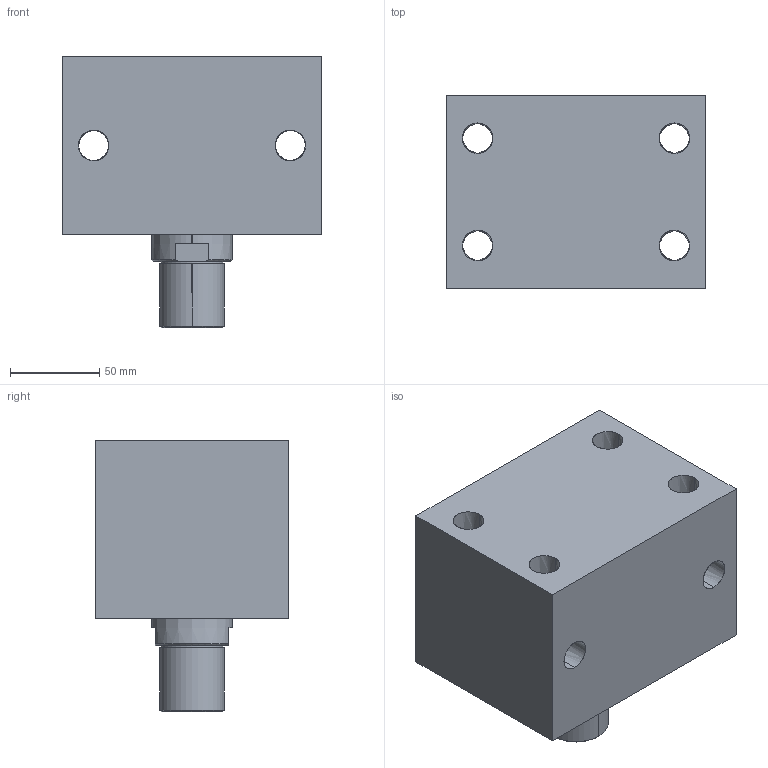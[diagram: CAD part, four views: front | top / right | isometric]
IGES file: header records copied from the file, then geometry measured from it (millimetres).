
Start section: SolidWorks IGES file using analytic representation for surfaces
Global section: file name: D:\karuppas\Clasp\3D model\Block cylinder B01C-Male thread - Copy\B01C-725M\Block cylinder B01C-725M.IGS; native system: SolidWorks 2017; preprocessor: SolidWorks 2017; author: pc; date: 220709.234644; units: millimetre
Bounding box: 145 x 108 x 152 mm (x, y, z)
Surface area: 142094 mm2 (no closed solid volume)
Topology: 0 solids, 0 shells, 349 faces, 5371 edges, 5367 vertices
Faces by surface type: bspline 295, revolution 54
